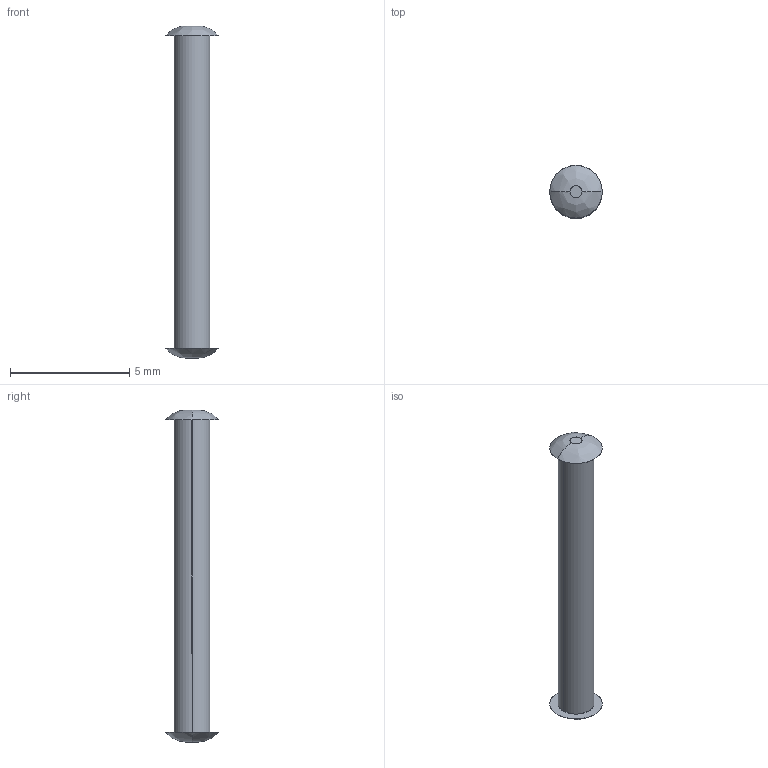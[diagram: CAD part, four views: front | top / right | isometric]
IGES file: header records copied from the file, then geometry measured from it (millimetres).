
Start section: SolidWorks IGES FILE using analytic representation for surfaces
Global section: file name: C:\Documents and Settings\lecoutey\Bureau\GP 69\69.050.00.IGS; native system: SolidWorks 2004 by SolidWorks Corporation; preprocessor: Version 5.3; author: lecoutey; date: 050329.145848; units: millimetre
Bounding box: 2.2 x 2.2 x 13.9 mm (x, y, z)
Surface area: 74.8 mm2 (no closed solid volume)
Topology: 0 solids, 0 shells, 10 faces, 152 edges, 152 vertices
Faces by surface type: bspline 8, revolution 2
